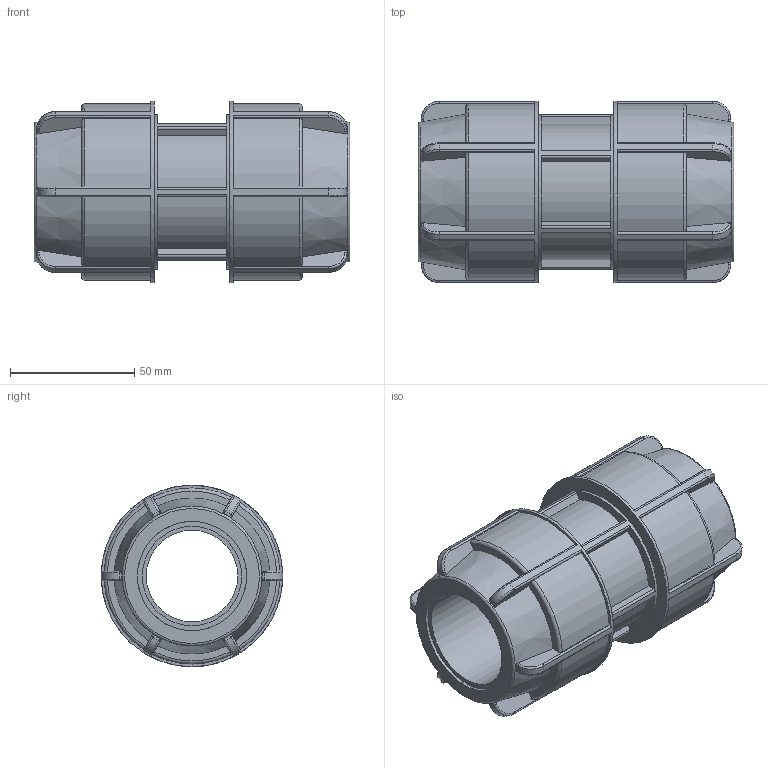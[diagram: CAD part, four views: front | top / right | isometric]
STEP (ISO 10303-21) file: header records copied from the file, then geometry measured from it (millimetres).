
FILE_DESCRIPTION(/* description */ ('PLASSON L.14 COUPLER (SILVER) 40'),/* implementation_level */ '2;1');
FILE_NAME(/* name */ 'C:\Dropbox\KIMPROJECTS-Inventor\99-16-3568-Processing\Silver Fittings\140100\140100040.ipt.stp',/* time_stamp */ '2018-06-12T15:52:43+03:00',/* author */ ('KIM'),/* organization */ (''),/* preprocessor_version */ 'ST-DEVELOPER v15.6',/* originating_system */ 'Autodesk Inventor 2015',/* authorisation */ '');
FILE_SCHEMA (('AUTOMOTIVE_DESIGN { 1 0 10303 214 3 1 1 }'));
Length unit declared in the file: millimetre
Products named in the file (1): 140100040
Bounding box: 127 x 72.99 x 73 mm (x, y, z)
Volume: 258547.7 mm3; surface area: 53778.6 mm2
Topology: 1 solids, 1 shells, 230 faces, 603 edges, 386 vertices
Faces by surface type: plane 92, cylinder 86, torus 26, bspline 24, cone 2
Full cylindrical faces by diameter (mm): 36.8 x1, 40 x2, 44 x2, 62.05 x1, 73 x2
Entity records: 8128 total; most frequent: CARTESIAN_POINT 2667, ORIENTED_EDGE 1164, DIRECTION 1110, EDGE_CURVE 582, AXIS2_PLACEMENT_3D 441, VERTEX_POINT 378, EDGE_LOOP 256, CIRCLE 234
